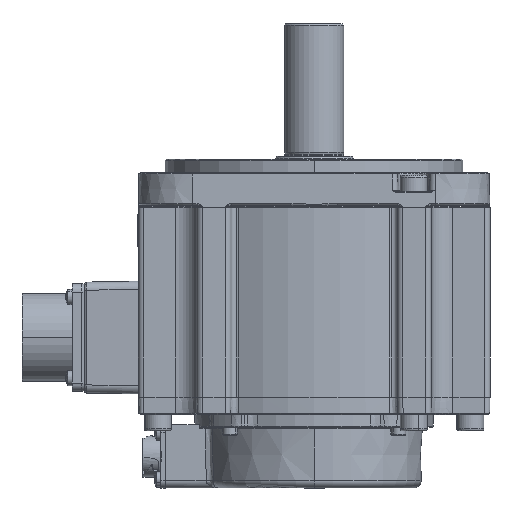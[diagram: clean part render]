
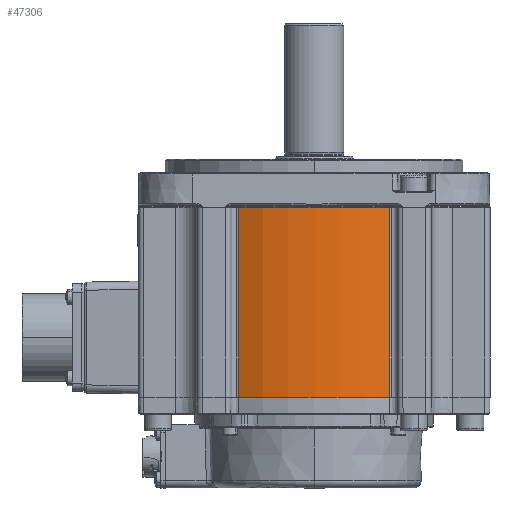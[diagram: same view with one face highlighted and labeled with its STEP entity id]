
A CAD part, left-side view. The second image highlights one B-rep face of the part: STEP entity #47306.
In plain terms, the highlighted cylindrical face has radius 64.5 mm (diameter 129 mm), a partial arc.
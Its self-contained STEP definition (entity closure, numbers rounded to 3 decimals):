
#1021 = CARTESIAN_POINT ( 'NONE',  ( -58.154, 27.9, -36. ) ) ;
#1161 = VERTEX_POINT ( 'NONE', #48620 ) ;
#1731 = ORIENTED_EDGE ( 'NONE', *, *, #33867, .T. ) ;
#2188 = VECTOR ( 'NONE', #18128, 1000. ) ;
#4903 = CARTESIAN_POINT ( 'NONE',  ( 0., 0., -35. ) ) ;
#8831 = DIRECTION ( 'NONE',  ( 0., 1., 0. ) ) ;
#9091 = DIRECTION ( 'NONE',  ( 0., 0., 1. ) ) ;
#9617 = ORIENTED_EDGE ( 'NONE', *, *, #46085, .F. ) ;
#13722 = CARTESIAN_POINT ( 'NONE',  ( 0., 0., -36. ) ) ;
#14955 = CYLINDRICAL_SURFACE ( 'NONE', #16877, 64.5 ) ;
#16877 = AXIS2_PLACEMENT_3D ( 'NONE', #13722, #33343, #41324 ) ;
#18128 = DIRECTION ( 'NONE',  ( 0., 0., 1. ) ) ;
#20194 = EDGE_CURVE ( 'NONE', #31406, #25426, #44594, .T. ) ;
#20808 = DIRECTION ( 'NONE',  ( 0., 0., -1. ) ) ;
#23352 = VERTEX_POINT ( 'NONE', #39888 ) ;
#25426 = VERTEX_POINT ( 'NONE', #49570 ) ;
#29115 = FACE_OUTER_BOUND ( 'NONE', #30035, .T. ) ;
#30035 = EDGE_LOOP ( 'NONE', ( #9617, #1731, #48372, #47397 ) ) ;
#31406 = VERTEX_POINT ( 'NONE', #32452 ) ;
#32433 = DIRECTION ( 'NONE',  ( 0., 0., -1. ) ) ;
#32452 = CARTESIAN_POINT ( 'NONE',  ( -58.154, 27.9, 35. ) ) ;
#32712 = CARTESIAN_POINT ( 'NONE',  ( 0., 0., 35. ) ) ;
#33343 = DIRECTION ( 'NONE',  ( 0., 0., 1. ) ) ;
#33867 = EDGE_CURVE ( 'NONE', #23352, #25426, #41655, .T. ) ;
#36707 = DIRECTION ( 'NONE',  ( 0., -1., 0. ) ) ;
#39888 = CARTESIAN_POINT ( 'NONE',  ( -58.154, -27.9, -35. ) ) ;
#40834 = CIRCLE ( 'NONE', #42974, 64.5 ) ;
#41324 = DIRECTION ( 'NONE',  ( 1., 0., 0. ) ) ;
#41655 = LINE ( 'NONE', #41768, #2188 ) ;
#41768 = CARTESIAN_POINT ( 'NONE',  ( -58.154, -27.9, -36. ) ) ;
#42236 = EDGE_CURVE ( 'NONE', #31406, #1161, #47338, .T. ) ;
#42590 = AXIS2_PLACEMENT_3D ( 'NONE', #32712, #9091, #36707 ) ;
#42974 = AXIS2_PLACEMENT_3D ( 'NONE', #4903, #32433, #8831 ) ;
#44594 = CIRCLE ( 'NONE', #42590, 64.5 ) ;
#46085 = EDGE_CURVE ( 'NONE', #23352, #1161, #40834, .T. ) ;
#46100 = VECTOR ( 'NONE', #20808, 1000. ) ;
#47306 = ADVANCED_FACE ( 'NONE', ( #29115 ), #14955, .T. ) ;
#47338 = LINE ( 'NONE', #1021, #46100 ) ;
#47397 = ORIENTED_EDGE ( 'NONE', *, *, #42236, .T. ) ;
#48372 = ORIENTED_EDGE ( 'NONE', *, *, #20194, .F. ) ;
#48620 = CARTESIAN_POINT ( 'NONE',  ( -58.154, 27.9, -35. ) ) ;
#49570 = CARTESIAN_POINT ( 'NONE',  ( -58.154, -27.9, 35. ) ) ;
